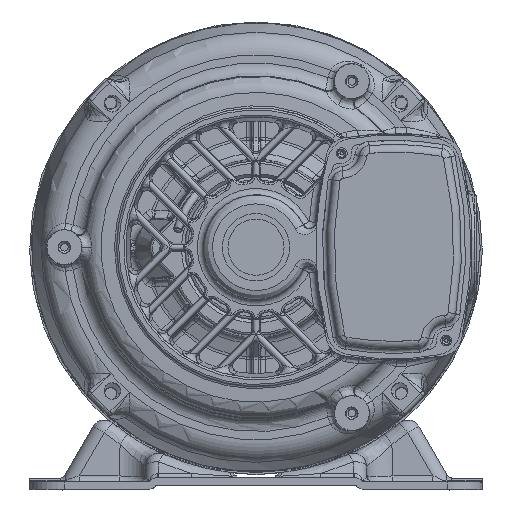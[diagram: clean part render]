
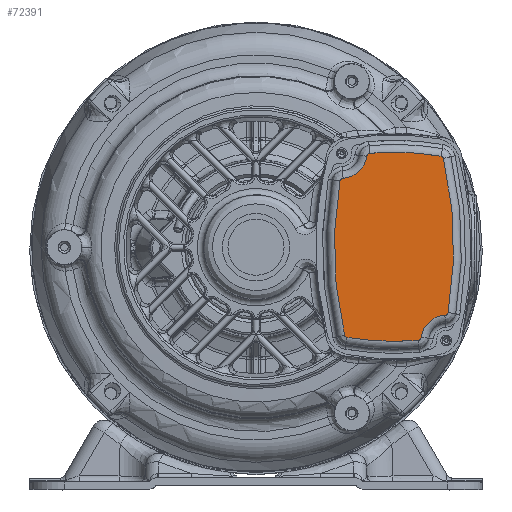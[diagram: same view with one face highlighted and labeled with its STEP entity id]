
A CAD part, top view. The second image highlights one B-rep face of the part: STEP entity #72391.
In plain terms, the highlighted planar face has unit normal (0, 0, 1) as drawn and (0, 0, -1) by its records, which use the part's own axes.
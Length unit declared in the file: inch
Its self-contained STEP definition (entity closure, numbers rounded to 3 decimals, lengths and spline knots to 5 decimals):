
#70782=CARTESIAN_POINT('',(-1.25804,-0.66754,-0.625));
#70783=DIRECTION('',(0.,0.,-1.));
#70784=DIRECTION('',(-0.231,-0.973,0.));
#70785=AXIS2_PLACEMENT_3D('',#70782,#70783,#70784);
#70787=CARTESIAN_POINT('',(0.,4.625,-0.625));
#70788=DIRECTION('',(0.,0.,-1.));
#70789=DIRECTION('',(0.172,-0.985,0.));
#70790=AXIS2_PLACEMENT_3D('',#70787,#70788,#70789);
#70792=CARTESIAN_POINT('',(0.93459,-0.72803,-0.625));
#70793=DIRECTION('',(0.,0.,-1.));
#70794=DIRECTION('',(0.999,-0.054,0.));
#70795=AXIS2_PLACEMENT_3D('',#70792,#70793,#70794);
#70797=CARTESIAN_POINT('',(1.344,-0.75,-0.625));
#70798=DIRECTION('',(0.,0.,1.));
#70799=DIRECTION('',(-0.122,0.993,0.));
#70800=AXIS2_PLACEMENT_3D('',#70797,#70798,#70799);
#70802=CARTESIAN_POINT('',(1.29401,-0.34306,-0.625));
#70803=DIRECTION('',(0.,0.,-1.));
#70804=DIRECTION('',(0.996,-0.087,0.));
#70805=AXIS2_PLACEMENT_3D('',#70802,#70803,#70804);
#70807=CARTESIAN_POINT('',(-2.625,0.,-0.625));
#70808=DIRECTION('',(0.,0.,-1.));
#70809=DIRECTION('',(0.986,0.169,0.));
#70810=AXIS2_PLACEMENT_3D('',#70807,#70808,#70809);
#70812=CARTESIAN_POINT('',(1.25804,0.66754,-0.625));
#70813=DIRECTION('',(0.,0.,-1.));
#70814=DIRECTION('',(0.231,0.973,0.));
#70815=AXIS2_PLACEMENT_3D('',#70812,#70813,#70814);
#70817=CARTESIAN_POINT('',(0.,-4.625,-0.625));
#70818=DIRECTION('',(0.,0.,-1.));
#70819=DIRECTION('',(-0.172,0.985,0.));
#70820=AXIS2_PLACEMENT_3D('',#70817,#70818,#70819);
#70822=CARTESIAN_POINT('',(-0.93459,0.72803,-0.625));
#70823=DIRECTION('',(0.,0.,-1.));
#70824=DIRECTION('',(-0.999,0.054,0.));
#70825=AXIS2_PLACEMENT_3D('',#70822,#70823,#70824);
#70827=CARTESIAN_POINT('',(-1.344,0.75,-0.625));
#70828=DIRECTION('',(0.,0.,1.));
#70829=DIRECTION('',(0.122,-0.993,0.));
#70830=AXIS2_PLACEMENT_3D('',#70827,#70828,#70829);
#70832=CARTESIAN_POINT('',(-1.29401,0.34306,-0.625));
#70833=DIRECTION('',(0.,0.,-1.));
#70834=DIRECTION('',(-0.996,0.087,0.));
#70835=AXIS2_PLACEMENT_3D('',#70832,#70833,#70834);
#70837=CARTESIAN_POINT('',(2.625,0.,-0.625));
#70838=DIRECTION('',(0.,0.,-1.));
#70839=DIRECTION('',(-0.986,-0.169,0.));
#70840=AXIS2_PLACEMENT_3D('',#70837,#70838,#70839);
#71175=CARTESIAN_POINT('',(-1.26784,-0.70879,-0.625));
#71176=CARTESIAN_POINT('',(-1.29983,-0.67472,-0.625));
#71177=VERTEX_POINT('',#71175);
#71178=VERTEX_POINT('',#71176);
#71183=CARTESIAN_POINT('',(-1.34223,0.34728,-0.625));
#71184=VERTEX_POINT('',#71183);
#71187=CARTESIAN_POINT('',(-0.94291,0.77571,-0.625));
#71188=CARTESIAN_POINT('',(1.26784,0.70879,-0.625));
#71189=VERTEX_POINT('',#71187);
#71190=VERTEX_POINT('',#71188);
#71195=CARTESIAN_POINT('',(1.29983,0.67472,-0.625));
#71196=VERTEX_POINT('',#71195);
#71199=CARTESIAN_POINT('',(1.34223,-0.34728,-0.625));
#71200=VERTEX_POINT('',#71199);
#71203=CARTESIAN_POINT('',(0.94291,-0.77571,-0.625));
#71204=VERTEX_POINT('',#71203);
#71271=CARTESIAN_POINT('',(-1.29991,0.3911,-0.625));
#71272=VERTEX_POINT('',#71271);
#71275=CARTESIAN_POINT('',(-0.98292,0.73062,-0.625));
#71276=VERTEX_POINT('',#71275);
#71279=CARTESIAN_POINT('',(1.29991,-0.3911,-0.625));
#71280=VERTEX_POINT('',#71279);
#71283=CARTESIAN_POINT('',(0.98292,-0.73062,-0.625));
#71284=VERTEX_POINT('',#71283);
#72361=CARTESIAN_POINT('',(0.,0.,-0.625));
#72362=DIRECTION('',(0.,0.,-1.));
#72363=DIRECTION('',(-1.,0.,0.));
#72364=AXIS2_PLACEMENT_3D('',#72361,#72362,#72363);
#72365=PLANE('',#72364);
#72367=ORIENTED_EDGE('',*,*,#72366,.F.);
#72369=ORIENTED_EDGE('',*,*,#72368,.F.);
#72371=ORIENTED_EDGE('',*,*,#72370,.F.);
#72373=ORIENTED_EDGE('',*,*,#72372,.F.);
#72375=ORIENTED_EDGE('',*,*,#72374,.F.);
#72377=ORIENTED_EDGE('',*,*,#72376,.F.);
#72379=ORIENTED_EDGE('',*,*,#72378,.F.);
#72381=ORIENTED_EDGE('',*,*,#72380,.F.);
#72383=ORIENTED_EDGE('',*,*,#72382,.F.);
#72385=ORIENTED_EDGE('',*,*,#72384,.F.);
#72387=ORIENTED_EDGE('',*,*,#72386,.F.);
#72388=ORIENTED_EDGE('',*,*,#72351,.F.);
#72389=EDGE_LOOP('',(#72367,#72369,#72371,#72373,#72375,#72377,#72379,#72381,
#72383,#72385,#72387,#72388));
#72390=FACE_OUTER_BOUND('',#72389,.F.);
#72391=ADVANCED_FACE('',(#72390),#72365,.T.);
#70786=CIRCLE('',#70785,0.0424);
#70791=CIRCLE('',#70790,5.4824);
#70796=CIRCLE('',#70795,0.0484);
#70801=CIRCLE('',#70800,0.3616);
#70806=CIRCLE('',#70805,0.0484);
#70811=CIRCLE('',#70810,3.9824);
#70816=CIRCLE('',#70815,0.0424);
#70821=CIRCLE('',#70820,5.4824);
#70826=CIRCLE('',#70825,0.0484);
#70831=CIRCLE('',#70830,0.3616);
#70836=CIRCLE('',#70835,0.0484);
#70841=CIRCLE('',#70840,3.9824);
#72351=EDGE_CURVE('',#71178,#71184,#70841,.T.);
#72366=EDGE_CURVE('',#71177,#71178,#70786,.T.);
#72368=EDGE_CURVE('',#71204,#71177,#70791,.T.);
#72370=EDGE_CURVE('',#71284,#71204,#70796,.T.);
#72372=EDGE_CURVE('',#71280,#71284,#70801,.T.);
#72374=EDGE_CURVE('',#71200,#71280,#70806,.T.);
#72376=EDGE_CURVE('',#71196,#71200,#70811,.T.);
#72378=EDGE_CURVE('',#71190,#71196,#70816,.T.);
#72380=EDGE_CURVE('',#71189,#71190,#70821,.T.);
#72382=EDGE_CURVE('',#71276,#71189,#70826,.T.);
#72384=EDGE_CURVE('',#71272,#71276,#70831,.T.);
#72386=EDGE_CURVE('',#71184,#71272,#70836,.T.);
